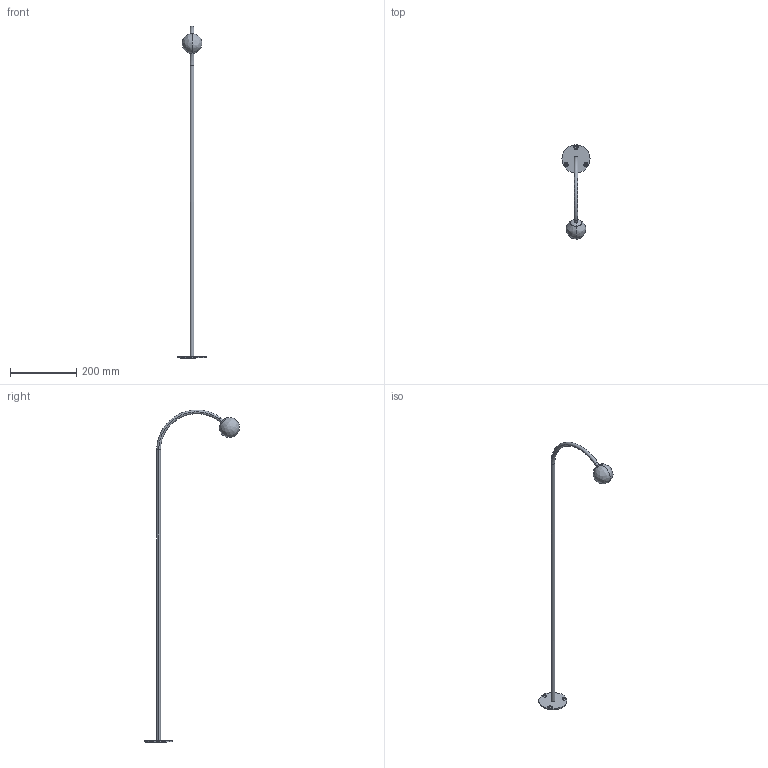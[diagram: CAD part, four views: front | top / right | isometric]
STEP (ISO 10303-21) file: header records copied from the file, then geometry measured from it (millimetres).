
FILE_DESCRIPTION(/* description */ (''),/* implementation_level */ '2;1');
FILE_NAME(/* name */ '75588.step',/* time_stamp */ '2024-10-24T13:26:32+02:00',/* author */ ('RenataManzini'),/* organization */ (''),/* preprocessor_version */ 'ST-DEVELOPER v20',/* originating_system */ 'AutoCAD Mechanical',/* authorisation */ '');
FILE_SCHEMA (('AUTOMOTIVE_DESIGN { 1 0 10303 214 3 1 1 }'));
Length unit declared in the file: millimetre
Products named in the file (1): Product
Bounding box: 85 x 286.78 x 1003.92 mm (x, y, z)
Volume: 257081.8 mm3; surface area: 68103.1 mm2
Topology: 7 solids, 7 shells, 58 faces, 102 edges, 56 vertices
Faces by surface type: plane 22, cylinder 18, cone 12, bspline 4, torus 2
Entity records: 1544 total; most frequent: CARTESIAN_POINT 406, DIRECTION 251, ORIENTED_EDGE 198, AXIS2_PLACEMENT_3D 106, EDGE_CURVE 99, EDGE_LOOP 64, FACE_OUTER_BOUND 58, ADVANCED_FACE 58
